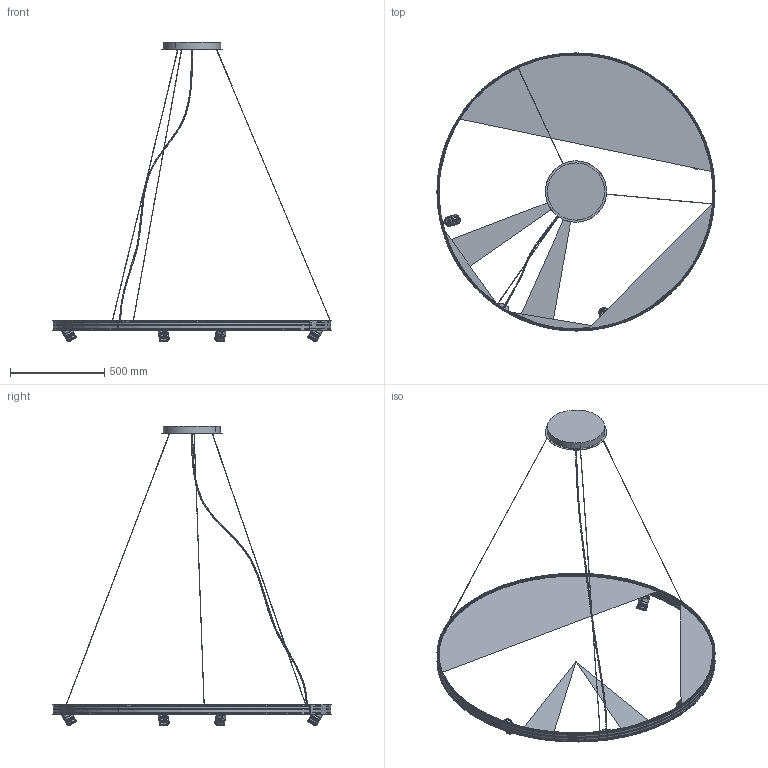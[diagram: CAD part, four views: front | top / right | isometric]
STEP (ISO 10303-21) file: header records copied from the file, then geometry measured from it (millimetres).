
FILE_DESCRIPTION(/* description */ (''),/* implementation_level */ '2;1');
FILE_NAME(/* name */ 'L074__.150',/* time_stamp */ '2024-06-19T14:44:46+02:00',/* author */ (''),/* organization */ (''),/* preprocessor_version */ 'ST-DEVELOPER v16.5',/* originating_system */ '',/* authorisation */ '');
FILE_SCHEMA (('AUTOMOTIVE_DESIGN'));
Length unit declared in the file: millimetre
Products named in the file (38): Document; 3200.0363000.00 (piastra di rinforzo rosone ACC D 325mm sp 1,2)_3201.
0363011.00; Blocco 44; Parte37^L074__.150.0518; Blocco 08; Parte38^L074__.150.0518; Blocco 45; 5401.0018000.00 (molla in nastro sagomata ACC INOX 6x54,2x9,5mm sp 0,
3)_5401.0018000.00 in opera; Blocco 55; 3200.0495000.00 (copertura giunzione ACC 72,2x22,2mm H 41,1mm sp 1)_3
209.0495001.00; Blocco 03; 3300.0209000.00 (snodo 2 movimenti ALL 33,5x24x12mm Ivela 95-04142-00
)_3300.0209000.00; Blocco 30; 3100.0058000.00 (copertura snodo 2 movimenti NY+FV bianco 11,4x22,8x9
,5mm Ivela 94-04143-31)_3100.0058000.00; Blocco 18; 3300.0204000.00 (profilo curvo Arena ALL 8,6x53mm D est. 1473mm)_3306.
0204360.00; Blocco 40; 3100.0055000.00 (schermo estruso Giplast 09PE79 PC 19x3,8mm per curva
 D int. 1453,2mm)_3101.0055085.98; Blocco 21; 3100.0055000.00 (schermo estruso Giplast 09PE79 PC 19x3,8mm per curva
 D int. 1453,2mm)_3101.0055040.00; Blocco 49; 3100.0055000.00 (schermo estruso Giplast 09PE79 PC 19x3,8mm per curva
 D int. 1453,2mm)_3101.0055177.98; Blocco 51; 3200.0468000.00 (copertura piastrina di fissaggio faretto ACC 70x23,4
x4mm sp 0,7)_3209.0468000.00; Blocco 02; Blocco 33; Blocco 29; Blocco 50; Blocco 35; 3300.0206000.00 (corpo faretto ALL D 53mm H 75mm Ivela 95-04138-00)_3
300.0206000.00; 3300.0207000.00 (fondello faretto ALL D 47,4mm H 11,5mm Ivela 95-0414
0-00)_3300.0207000.00; 3100.0057000.00 (cilindro di chiusura con sede schermo PBT+FV nero D 
50,6mm H 33mm Ivela 94-04139A-30)_3100.0057000.00; 3500.0014000.00 (schermo piano zigrinato VETRO D 46mm sp 4 Ivela 98-0
4074-58)_3500.0014000.00; 5200.0012000.00 (dispositivo regolazione fune con blocco OTTONE niche
lato con innesto maschio M10 L 15mm Sacla 2510N)_5200.0012000.00; Blocco 22; Blocco 23; Blocco 24; Blocco 25
Assembly tree (66 placements, depth 3):
  Document
    3200.0363000.00 (piastra di rinforzo rosone ACC D 325mm sp 1,2)_3201.
0363011.00
      Blocco 44
    Parte37^L074__.150.0518  x3
      Blocco 08
    Parte38^L074__.150.0518
      Blocco 45
    5401.0018000.00 (molla in nastro sagomata ACC INOX 6x54,2x9,5mm sp 0,
3)_5401.0018000.00 in opera
      Blocco 55
    3200.0495000.00 (copertura giunzione ACC 72,2x22,2mm H 41,1mm sp 1)_3
209.0495001.00
      Blocco 03
    3300.0209000.00 (snodo 2 movimenti ALL 33,5x24x12mm Ivela 95-04142-00
)_3300.0209000.00  x4
      Blocco 30
    3100.0058000.00 (copertura snodo 2 movimenti NY+FV bianco 11,4x22,8x9
,5mm Ivela 94-04143-31)_3100.0058000.00  x4
      Blocco 18
    3300.0204000.00 (profilo curvo Arena ALL 8,6x53mm D est. 1473mm)_3306.
0204360.00
      Blocco 40
    3100.0055000.00 (schermo estruso Giplast 09PE79 PC 19x3,8mm per curva
 D int. 1453,2mm)_3101.0055085.98  x3
      Blocco 21
    3100.0055000.00 (schermo estruso Giplast 09PE79 PC 19x3,8mm per curva
 D int. 1453,2mm)_3101.0055040.00  x2
      Blocco 49
    3100.0055000.00 (schermo estruso Giplast 09PE79 PC 19x3,8mm per curva
 D int. 1453,2mm)_3101.0055177.98  x2
      Blocco 51
    3200.0468000.00 (copertura piastrina di fissaggio faretto ACC 70x23,4
x4mm sp 0,7)_3209.0468000.00  x4
      Blocco 02
    Blocco 33  x3
    Blocco 29  x3
    Blocco 50  x3
    Blocco 35  x3
    3300.0206000.00 (corpo faretto ALL D 53mm H 75mm Ivela 95-04138-00)_3
300.0206000.00
      Blocco 35
    3300.0207000.00 (fondello faretto ALL D 47,4mm H 11,5mm Ivela 95-0414
0-00)_3300.0207000.00
      Blocco 50
    3100.0057000.00 (cilindro di chiusura con sede schermo PBT+FV nero D 
50,6mm H 33mm Ivela 94-04139A-30)_3100.0057000.00
      Blocco 29
    3500.0014000.00 (schermo piano zigrinato VETRO D 46mm sp 4 Ivela 98-0
4074-58)_3500.0014000.00
      Blocco 33
    5200.0012000.00 (dispositivo regolazione fune con blocco OTTONE niche
lato con innesto maschio M10 L 15mm Sacla 2510N)_5200.0012000.00  x3
      Blocco 22
      Blocco 23
      Blocco 24
      Blocco 25
Bounding box: 1472.94 x 1472.92 x 1589.03 mm (x, y, z)
Volume: 2675191.6 mm3; surface area: 1875209.9 mm2
Topology: 1 solids, 2502 shells, 2528 faces, 13493 edges, 13428 vertices
Faces by surface type: bspline 1557, plane 971
Entity records: 79934 total; most frequent: CARTESIAN_POINT 53511, ORIENTED_EDGE 5172, EDGE_CURVE 5151, VERTEX_POINT 5134, B_SPLINE_CURVE_WITH_KNOTS 2705, EDGE_LOOP 1060, ADVANCED_FACE 992, FACE_OUTER_BOUND 992
